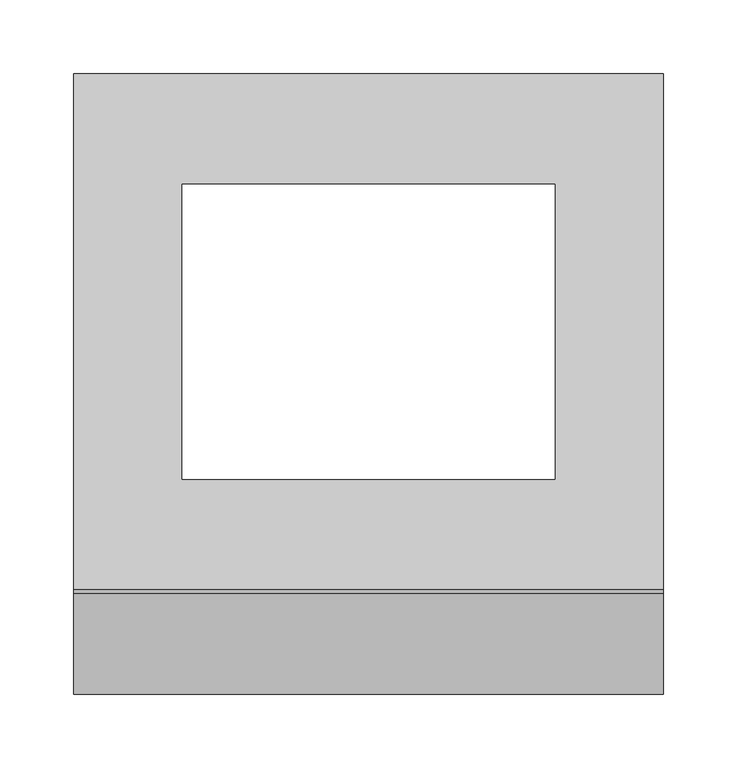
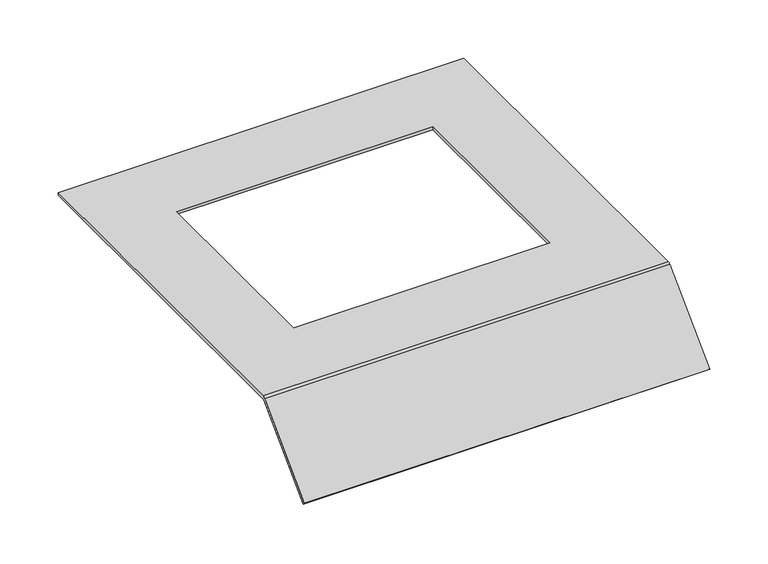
"""IFC4 building model written with IfcOpenShell, lengths in millimetres: proxy geometry, Electrical_Installation_Hager_Covers-With-Installation-Opening-E09 : Electrical_Installation_Hager_Covers-With-Installation-Opening-E09."""

from ifc_helpers import new_model, si_unit, frame, origin, place, context, project, spatial, polyline, circle_curve, source, transform, mapped, element, save
from ifc_brep_helpers import plane_surface, cylinder_surface, revolved_surface, advanced_brep


def electrical_fixtures_ad2855bb(model_context):
    return source(origin(), model_context, "Body", "AdvancedBrep", [
        advanced_brep(
        [(0.0, 175.0, 40.5), (0.0, 175.0, 37.5), (0.0, -174.8229541, 37.5), (0.0, -175.8322972, 37.0819164), (0.0, -243.712807, -30.7985934), (0.0, -245.8341273, -28.6772731), (0.0, -177.8206472, 39.336207), (0.0, -175.0110025, 40.5), (400.0, 175.0, 40.5), (400.0, -175.0110025, 40.5), (400.0, -177.8206472, 39.336207), (400.0, -245.8341273, -28.6772731), (400.0, -243.712807, -30.7985934), (400.0, -175.8322972, 37.0819164), (400.0, -174.8229541, 37.5), (400.0, 175.0, 37.5), (326.5, 100.0, 37.5), (73.5, 100.0, 37.5), (73.5, -100.0, 37.5), (326.5, -100.0, 37.5), (73.5, 100.0, 40.5), (326.5, 100.0, 40.5), (326.5, -100.0, 40.5), (73.5, -100.0, 40.5)],
        [
            (0, 1),
            (1, 2),
            (2, 3, circle_curve(frame((0.0, -174.8229541, 36.0725733), z_axis=(1.0, 0.0, 0.0), x_axis=(0.0, 1.0, 0.0)), 1.4274267)),
            (3, 4),
            (4, 5),
            (5, 6),
            (6, 7, circle_curve(frame((0.0, -175.0110025, 36.5265623), z_axis=(-1.0, 0.0, 0.0), x_axis=(0.0, 1.0, 0.0)), 3.9734377)),
            (7, 0),
            (8, 9),
            (9, 10, circle_curve(frame((400.0, -175.0110025, 36.5265623), z_axis=(1.0, 0.0, 0.0), x_axis=(0.0, 1.0, 0.0)), 3.9734377)),
            (10, 11),
            (11, 12),
            (12, 13),
            (13, 14, circle_curve(frame((400.0, -174.8229541, 36.0725733), z_axis=(-1.0, 0.0, 0.0), x_axis=(0.0, 1.0, 0.0)), 1.4274267)),
            (14, 15),
            (15, 8),
            (0, 8),
            (15, 1),
            (14, 2),
            (16, 17),
            (17, 18),
            (18, 19),
            (19, 16),
            (13, 3),
            (12, 4),
            (11, 5),
            (10, 6),
            (9, 7),
            (20, 21),
            (21, 22),
            (22, 23),
            (23, 20),
            (16, 21),
            (20, 17),
            (23, 18),
            (22, 19),
        ],
        [
            plane_surface(frame((0.0, 0.3269864, 15.0), z_axis=(-1.0, 0.0, 0.0), x_axis=(0.0, 0.0, 1.0))),
            plane_surface(frame((400.0, 0.3269864, 15.0), z_axis=(1.0, 0.0, 0.0), x_axis=(0.0, 0.0, 1.0))),
            plane_surface(frame((0.0, 175.0, 40.5), z_axis=(0.0, 1.0, 0.0), x_axis=(1.0, 0.0, 0.0))),
            plane_surface(frame((0.0, 175.0, 37.5), z_axis=(0.0, 0.0, -1.0), x_axis=(1.0, 0.0, 0.0))),
            revolved_surface(polyline([(400.0, -173.3955274, 36.0725733), (0.0, -173.3955274, 36.0725733)]), (0.0, -174.8229541, 36.0725733), (1.0, 0.0, 0.0)),
            plane_surface(frame((0.0, -175.8322972, 37.0819164), z_axis=(0.0, 0.7071067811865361, -0.707106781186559), x_axis=(1.0, 0.0, 0.0))),
            plane_surface(frame((0.0, -243.712807, -30.7985934), z_axis=(0.0, -0.7071067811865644, -0.7071067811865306), x_axis=(1.0, 0.0, 0.0))),
            plane_surface(frame((0.0, -245.8341273, -28.6772731), z_axis=(0.0, -0.7071067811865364, 0.7071067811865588), x_axis=(1.0, 0.0, 0.0))),
            cylinder_surface(frame((0.0, -175.0110025, 36.5265623), z_axis=(-1.0, 0.0, 0.0), x_axis=(0.0, 1.0, 0.0)), 3.9734377),
            plane_surface(frame((0.0, -175.0110025, 40.5), z_axis=(0.0, 0.0, 1.0), x_axis=(1.0, 0.0, 0.0))),
            plane_surface(frame((326.5, 100.0, 250.0), z_axis=(0.0, -1.0, 0.0), x_axis=(0.0, 0.0, -1.0))),
            plane_surface(frame((73.5, 100.0, 250.0), z_axis=(1.0, 0.0, 0.0), x_axis=(0.0, 0.0, -1.0))),
            plane_surface(frame((73.5, -100.0, 250.0), z_axis=(0.0, 1.0, 0.0), x_axis=(0.0, 0.0, -1.0))),
            plane_surface(frame((326.5, -100.0, 250.0), z_axis=(-1.0, 0.0, 0.0), x_axis=(0.0, 0.0, -1.0))),
        ],
        [
            (0, [[1, 2, 3, 4, 5, 6, 7, 8]]),
            (1, [[9, 10, 11, 12, 13, 14, 15, 16]]),
            (2, [[-1, 17, -16, 18]]),
            (3, [[-2, -18, -15, 19], [20, 21, 22, 23]]),
            (4, [[-3, -19, -14, 24]]),
            (5, [[-4, -24, -13, 25]]),
            (6, [[-5, -25, -12, 26]]),
            (7, [[-6, -26, -11, 27]]),
            (8, [[-7, -27, -10, 28]]),
            (9, [[-8, -28, -9, -17], [29, 30, 31, 32]]),
            (10, [[33, -29, 34, -20]]),
            (11, [[-34, -32, 35, -21]]),
            (12, [[-35, -31, 36, -22]]),
            (13, [[-33, -23, -36, -30]]),
        ],
    ),
    ])


if __name__ == "__main__":
    model = new_model("IFC4")
    model_context = context("Model", 3, world=origin())
    ifc_project = project(units=[si_unit("LENGTHUNIT", "METRE", prefix="MILLI")], contexts=[model_context])
    site = spatial("IfcSite", under=ifc_project)
    building = spatial("IfcBuilding", under=site)
    placement = place(None, origin())
    electrical_fixtures_shape = electrical_fixtures_ad2855bb(model_context)
    element("IfcBuildingElementProxy", 1, Name="Electrical_Installation_Hager_Covers-With-Installation-Opening-E09 : Electrical_Installation_Hager_Covers-With-Installation-Opening-E09", ObjectType="Electrical_Installation_Hager_Covers-With-Installation-Opening-E09 : Electrical_Installation_Hager_Covers-With-Installation-Opening-E09", at=placement, inside=building, context=model_context, shape_type="MappedRepresentation", body=[
        mapped(electrical_fixtures_shape, transform((0.0, 0.0, 0.0), x_axis=(1.0, 0.0, 0.0), y_axis=(0.0, 1.0, 0.0), z_axis=(0.0, 0.0, 1.0))),
    ])
    save(model, "model.ifc")
